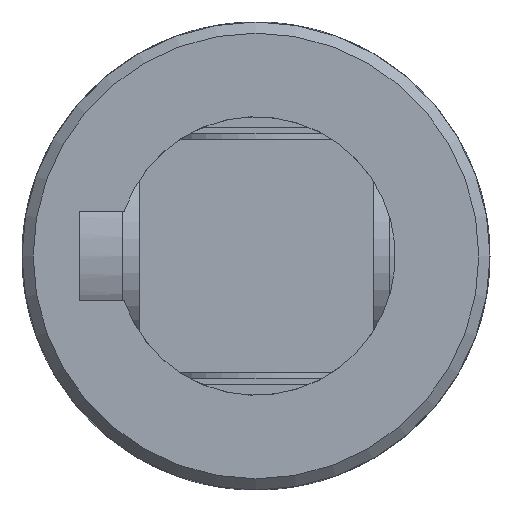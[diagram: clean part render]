
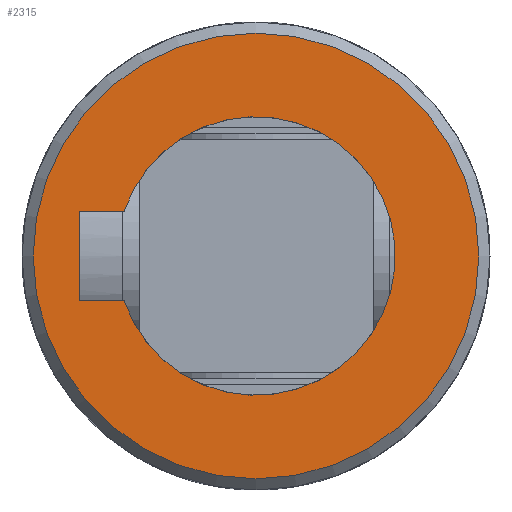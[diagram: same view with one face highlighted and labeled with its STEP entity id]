
A CAD part, front view. The second image highlights one B-rep face of the part: STEP entity #2315.
In plain terms, the highlighted planar face has unit normal (0, -1, 0).
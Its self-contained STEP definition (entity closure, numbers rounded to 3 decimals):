
#121=LINE('',#4235,#188);
#123=LINE('',#4251,#190);
#125=LINE('',#4255,#192);
#188=VECTOR('',#2995,3.957);
#190=VECTOR('',#2999,8.);
#192=VECTOR('',#3005,3.957);
#256=PLANE('',#2538);
#490=FACE_BOUND('',#774,.T.);
#592=FACE_OUTER_BOUND('',#773,.T.);
#773=EDGE_LOOP('',(#1923));
#774=EDGE_LOOP('',(#1924,#1925,#1926,#1927));
#916=CIRCLE('',#2528,12.5);
#920=CIRCLE('',#2536,20.);
#1096=VERTEX_POINT('',#4203);
#1097=VERTEX_POINT('',#4205);
#1100=VERTEX_POINT('',#4234);
#1102=VERTEX_POINT('',#4250);
#1104=VERTEX_POINT('',#4259);
#1379=EDGE_CURVE('',#1097,#1096,#916,.T.);
#1384=EDGE_CURVE('',#1100,#1097,#121,.T.);
#1387=EDGE_CURVE('',#1102,#1100,#123,.T.);
#1390=EDGE_CURVE('',#1096,#1102,#125,.T.);
#1392=EDGE_CURVE('',#1104,#1104,#920,.T.);
#1923=ORIENTED_EDGE('',*,*,#1392,.F.);
#1924=ORIENTED_EDGE('',*,*,#1379,.T.);
#1925=ORIENTED_EDGE('',*,*,#1390,.T.);
#1926=ORIENTED_EDGE('',*,*,#1387,.T.);
#1927=ORIENTED_EDGE('',*,*,#1384,.T.);
#2315=ADVANCED_FACE('',(#592,#490),#256,.F.);
#2528=AXIS2_PLACEMENT_3D('',#4206,#2988,#2989);
#2536=AXIS2_PLACEMENT_3D('',#4260,#3010,#3011);
#2538=AXIS2_PLACEMENT_3D('',#4484,#3018,#3019);
#2988=DIRECTION('center_axis',(0.,1.,0.));
#2989=DIRECTION('ref_axis',(-0.32,0.,0.947));
#2995=DIRECTION('',(0.,0.,1.));
#2999=DIRECTION('',(-1.,0.,0.));
#3005=DIRECTION('',(0.,0.,-1.));
#3010=DIRECTION('center_axis',(0.,1.,0.));
#3011=DIRECTION('ref_axis',(1.,0.,0.));
#3018=DIRECTION('center_axis',(0.,1.,0.));
#3019=DIRECTION('ref_axis',(0.,0.,1.));
#4203=CARTESIAN_POINT('',(4.,-64.,-11.843));
#4205=CARTESIAN_POINT('',(-4.,-64.,-11.843));
#4206=CARTESIAN_POINT('Origin',(0.,-64.,0.));
#4234=CARTESIAN_POINT('',(-4.,-64.,-15.8));
#4235=CARTESIAN_POINT('',(-4.,-64.,-7.9));
#4250=CARTESIAN_POINT('',(4.,-64.,-15.8));
#4251=CARTESIAN_POINT('',(2.,-64.,-15.8));
#4255=CARTESIAN_POINT('',(4.,-64.,-5.921));
#4259=CARTESIAN_POINT('',(-20.,-64.,0.));
#4260=CARTESIAN_POINT('Origin',(0.,-64.,0.));
#4484=CARTESIAN_POINT('Origin',(0.,-64.,0.));
